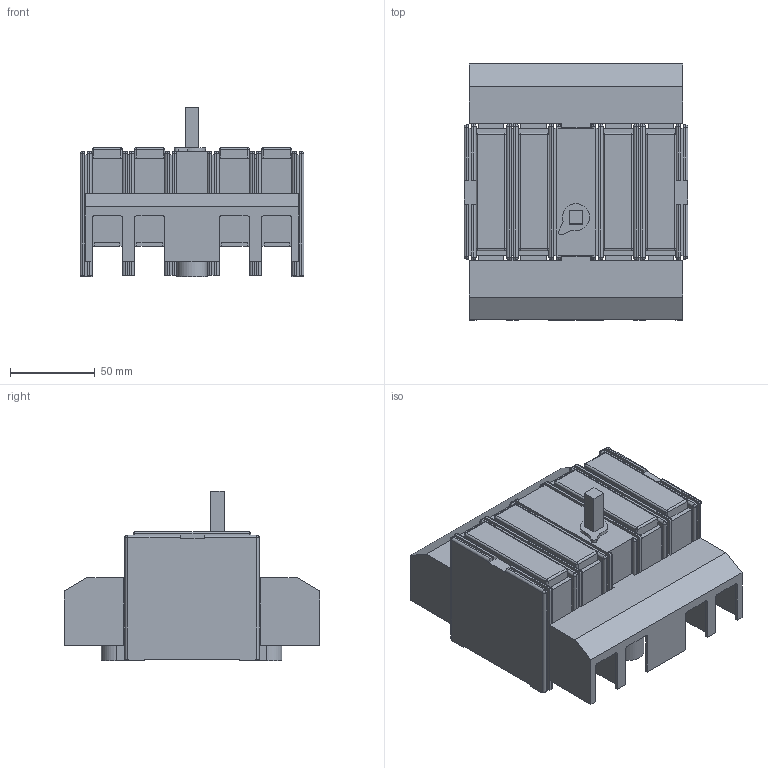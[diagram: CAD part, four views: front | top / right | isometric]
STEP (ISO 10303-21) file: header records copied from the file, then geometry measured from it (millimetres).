
FILE_DESCRIPTION(/* description */ (''),/* implementation_level */ '2;1');
FILE_NAME(/* name */ 'RA100 P3 N z oslonka zaciskow, RA100 P4 z oslonka zaciskow.stp',/* time_stamp */ '2021-08-17T12:23:24+02:00',/* author */ (''),/* organization */ (''),/* preprocessor_version */ 'ST-DEVELOPER v18.1',/* originating_system */ 'SIEMENS PLM Software NX 1965',/* authorisation */ '');
FILE_SCHEMA (('AUTOMOTIVE_DESIGN { 1 0 10303 214 3 1 1 1 }'));
Length unit declared in the file: millimetre
Products named in the file (1): RA100 P3 N z oslonka zaciskow,  RA100 P4 z oslonka zaciskow_stp
Bounding box: 132 x 151.03 x 100 mm (x, y, z)
Volume: 696414.7 mm3; surface area: 128466.8 mm2
Topology: 1 solids, 1 shells, 481 faces, 1312 edges, 803 vertices
Faces by surface type: plane 308, cylinder 133, sphere 39, bspline 1
Full cylindrical faces by diameter (mm): 5.8 x2, 6.5 x8, 10 x2, 11.5 x2
Entity records: 14614 total; most frequent: CARTESIAN_POINT 2573, ORIENTED_EDGE 2504, DIRECTION 2476, EDGE_CURVE 1252, LINE 984, VECTOR 984, VERTEX_POINT 797, AXIS2_PLACEMENT_3D 746
